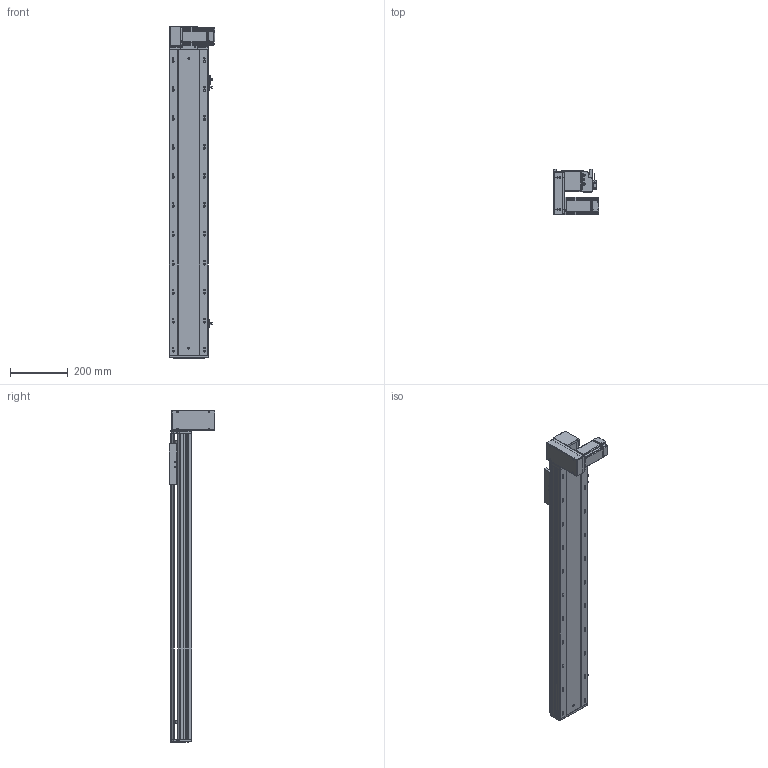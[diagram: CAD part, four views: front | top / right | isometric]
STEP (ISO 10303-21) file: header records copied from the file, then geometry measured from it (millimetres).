
FILE_DESCRIPTION (( 'STEP AP203' ), '1' );
FILE_NAME ('RY140-T-300-DL.SLDASM_800.step', '2021-03-01T06:06:08', ( '盈信电脑' ), ( '东莞市道滘镇水果街19号' ), 'SwSTEP 2.0', 'SolidWorks 2012', '' );
FILE_SCHEMA (( 'CONFIG_CONTROL_DESIGN' ));
Length unit declared in the file: millimetre
Products named in the file (18): RY140-T翋肮謫裔啣; RY140-T-300-DL.SLDASM_800; RY140-T萇儂欶; RY120-T蹟翐M4; 滅袉蝶18-10; 侂狟400W侜督萇儂; 15; RY140-T萇儂假蚾啣; RY120-T主同步轮轴承压盖; RY120外置感应片(140共用）; RY140-T翋肮祭謫盓傅釱; RY120-T肮祭湍揤踡輸1; RY120-T肮祭湍揤踡輸2; 覜茼ん672; RY140-T-300-DL倰第奻裔啣_800; RY140肮祭謫臏賑輸; RY140綴裔啣; RY140-T-300-DL倰第菁釱_800
Assembly tree (23 placements, depth 3):
  RY140-T-300-DL.SLDASM_800
    RY140-T-300-DL倰第菁釱_800
    RY140肮祭謫臏賑輸
    RY140-T-300-DL倰第奻裔啣_800
    RY140綴裔啣
    覜茼ん672  x3
    RY120外置感应片(140共用）
    RY120-T肮祭湍揤踡輸2
    RY120-T肮祭湍揤踡輸1
    RY140-T翋肮祭謫盓傅釱
    RY140-T萇儂假蚾啣
    侂狟400W侜督萇儂
      15
    RY120-T主同步轮轴承压盖
    RY120-T蹟翐M4  x4
    RY140-T萇儂欶
    滅袉蝶18-10  x2
    RY140-T翋肮謫裔啣
Bounding box: 157 x 158.5 x 1146 mm (x, y, z)
Volume: 3511053.8 mm3; surface area: 1330303.4 mm2
Topology: 22 solids, 22 shells, 2718 faces, 7502 edges, 4828 vertices
Faces by surface type: plane 1389, cylinder 1023, cone 206, bspline 100
Entity records: 86832 total; most frequent: CARTESIAN_POINT 21363, ORIENTED_EDGE 13516, DIRECTION 12756, EDGE_CURVE 6758, VERTEX_POINT 4427, VECTOR 4266, LINE 4266, AXIS2_PLACEMENT_3D 4245
